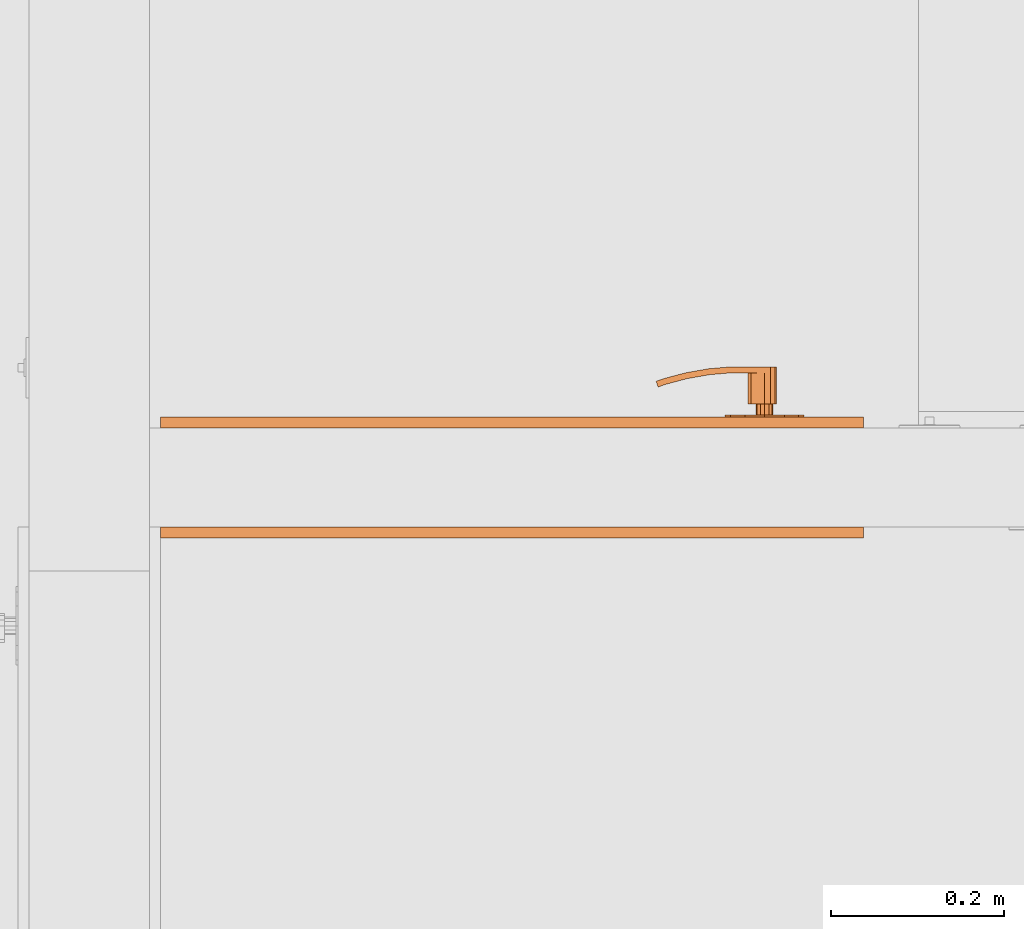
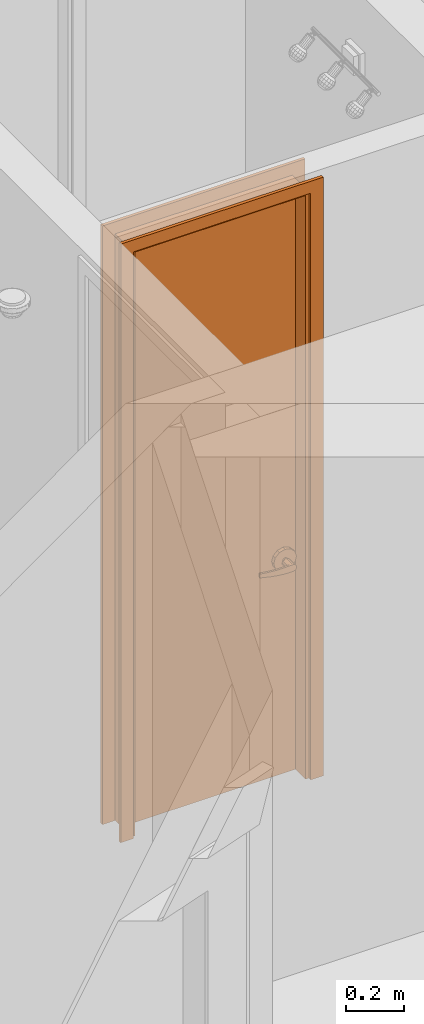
# One storey, part 21 of 48: 1 proxy.
"""IFC2X3 building model written with IfcOpenShell, lengths in inches."""

from ifc_helpers import new_model, entity, si_unit, converted_unit, derived_unit, money_unit, direction, frame, origin_with_axes, place, context, subcontext, project, spatial, open_shell, faceted_brep, surface_model, source, transform, mapped, type_object, element, save


model = new_model("IFC2X3")

# Units and contexts
model_context = context("Model", 3, precision=0.00039370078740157, world=origin_with_axes(), true_north=direction((0.0, 1.0)))
plan_context = context("Plan", 3, precision=0.00039370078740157, world=origin_with_axes(), true_north=direction((0.0, 1.0)))
body_context = subcontext(model_context, "Body", "Model", "MODEL_VIEW")
ifc_project = project(units=[converted_unit("LENGTHUNIT", "INCH", entity("IfcPositiveLengthMeasure", 0.0254), si_unit("LENGTHUNIT", "METRE"), dimensions=[1, 0, 0, 0, 0, 0, 0]), converted_unit("AREAUNIT", "SQUARE_FOOT", entity("IfcPositiveLengthMeasure", 0.09290304), si_unit("AREAUNIT", "SQUARE_METRE"), dimensions=[2, 0, 0, 0, 0, 0, 0]), si_unit("PLANEANGLEUNIT", "RADIAN"), si_unit("SOLIDANGLEUNIT", "STERADIAN"), money_unit("USD"), converted_unit("TIMEUNIT", "Year", entity("IfcTimeMeasure", 31557600.0), si_unit("TIMEUNIT", "SECOND"), dimensions=[0, 0, 1, 0, 0, 0, 0]), si_unit("MASSUNIT", "GRAM", prefix="KILO"), si_unit("THERMODYNAMICTEMPERATUREUNIT", "DEGREE_CELSIUS"), si_unit("LUMINOUSINTENSITYUNIT", "LUMEN"), si_unit("ENERGYUNIT", "JOULE", prefix="MEGA"), derived_unit("SPECIFICHEATCAPACITYUNIT", [(si_unit("ENERGYUNIT", "JOULE"), 1), (si_unit("MASSUNIT", "GRAM", prefix="KILO"), -1), (si_unit("THERMODYNAMICTEMPERATUREUNIT", "KELVIN"), -1)])], contexts=[model_context, plan_context])

# Site, building, storey
site_placement = place(None, origin_with_axes())
site = spatial("IfcSite", under=ifc_project, at=site_placement, Name="Site", CompositionType="ELEMENT")
building_placement = place(site_placement, origin_with_axes())
building = spatial("IfcBuilding", under=site, at=building_placement, Name="Building", CompositionType="ELEMENT")
storey_placement = place(building_placement, origin_with_axes())
storey = spatial("IfcBuildingStorey", under=building, at=storey_placement, Name="First Floor", CompositionType="ELEMENT", Elevation=0.0)

# Proxy
building_element_proxy_type = type_object("IfcBuildingElementProxyType", Name="D1", PredefinedType="NOTDEFINED")
shared_shape = source(origin_with_axes(), body_context, "Body", "SurfaceModel", [
    faceted_brep([(15.9999999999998, -4.999999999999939, 0.0), (13.99999999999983, -4.999999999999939, 0.0), (13.99999999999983, -4.499999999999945, 0.0), (15.9999999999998, -4.499999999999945, 0.0), (15.9999999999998, -4.999999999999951, 99.99999999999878), (13.99999999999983, -4.999999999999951, 97.99999999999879), (13.99999999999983, -4.499999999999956, 97.99999999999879), (15.9999999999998, -4.499999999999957, 99.99999999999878)], [[[0, 1, 2, 3]], [[0, 4, 5, 1]], [[1, 5, 6, 2]], [[3, 2, 6, 7]], [[4, 0, 3, 7]], [[5, 4, 7, 6]]]),
    faceted_brep([(-15.9999999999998, -4.999999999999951, 99.99999999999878), (-13.99999999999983, -4.999999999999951, 97.99999999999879), (-13.99999999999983, -4.499999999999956, 97.99999999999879), (-15.9999999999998, -4.499999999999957, 99.99999999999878), (-15.9999999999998, -4.999999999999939, 0.0), (-13.99999999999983, -4.999999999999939, 0.0), (-13.99999999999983, -4.499999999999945, 0.0), (-15.9999999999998, -4.499999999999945, 0.0)], [[[0, 1, 2, 3]], [[0, 4, 5, 1]], [[1, 5, 6, 2]], [[3, 2, 6, 7]], [[4, 0, 3, 7]], [[5, 4, 7, 6]]]),
    faceted_brep([(15.9999999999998, -4.999999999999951, 99.99999999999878), (13.99999999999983, -4.999999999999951, 97.99999999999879), (13.99999999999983, -4.499999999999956, 97.99999999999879), (15.9999999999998, -4.499999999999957, 99.99999999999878), (-15.9999999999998, -4.999999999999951, 99.99999999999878), (-13.99999999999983, -4.999999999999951, 97.99999999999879), (-13.99999999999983, -4.499999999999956, 97.99999999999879), (-15.9999999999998, -4.499999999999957, 99.99999999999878)], [[[0, 1, 2, 3]], [[0, 4, 5, 1]], [[1, 5, 6, 2]], [[3, 2, 6, 7]], [[4, 0, 3, 7]], [[5, 4, 7, 6]]]),
    faceted_brep([(15.9999999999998, 0.4999999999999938, 0.0), (15.9999999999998, 0.0, 0.0), (13.99999999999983, 0.0, 0.0), (13.99999999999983, 0.4999999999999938, 0.0), (15.9999999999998, 0.4999999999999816, 99.99999999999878), (15.9999999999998, 0.0, 99.99999999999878), (13.99999999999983, 0.0, 97.99999999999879), (13.99999999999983, 0.4999999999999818, 97.99999999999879)], [[[0, 1, 2, 3]], [[4, 5, 1, 0]], [[1, 5, 6, 2]], [[3, 2, 6, 7]], [[0, 3, 7, 4]], [[7, 6, 5, 4]]]),
    faceted_brep([(-15.9999999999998, 0.4999999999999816, 99.99999999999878), (-15.9999999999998, 0.0, 99.99999999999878), (-13.99999999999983, 0.0, 97.99999999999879), (-13.99999999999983, 0.4999999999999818, 97.99999999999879), (-15.9999999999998, 0.4999999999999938, 0.0), (-15.9999999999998, 0.0, 0.0), (-13.99999999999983, 0.0, 0.0), (-13.99999999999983, 0.4999999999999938, 0.0)], [[[0, 1, 2, 3]], [[4, 5, 1, 0]], [[1, 5, 6, 2]], [[3, 2, 6, 7]], [[0, 3, 7, 4]], [[7, 6, 5, 4]]]),
    faceted_brep([(15.9999999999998, 0.4999999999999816, 99.99999999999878), (15.9999999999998, 0.0, 99.99999999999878), (13.99999999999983, 0.0, 97.99999999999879), (13.99999999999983, 0.4999999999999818, 97.99999999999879), (-15.9999999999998, 0.4999999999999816, 99.99999999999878), (-15.9999999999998, 0.0, 99.99999999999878), (-13.99999999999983, 0.0, 97.99999999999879), (-13.99999999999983, 0.4999999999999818, 97.99999999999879)], [[[0, 1, 2, 3]], [[4, 5, 1, 0]], [[1, 5, 6, 2]], [[3, 2, 6, 7]], [[0, 3, 7, 4]], [[7, 6, 5, 4]]]),
    faceted_brep([(13.99999999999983, 0.0, 0.0), (13.99999999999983, -4.499999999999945, 0.0), (13.49999999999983, -4.499999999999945, 0.0), (13.49999999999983, 0.0, 0.0), (13.99999999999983, 0.0, 97.49999999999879), (13.99999999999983, -4.499999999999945, 97.49999999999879), (13.49999999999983, -4.499999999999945, 97.49999999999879), (13.49999999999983, 0.0, 97.49999999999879)], [[[0, 1, 2, 3]], [[4, 5, 1, 0]], [[1, 5, 6, 2]], [[3, 2, 6, 7]], [[0, 3, 7, 4]], [[7, 6, 5, 4]]]),
    faceted_brep([(-13.99999999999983, 0.0, 0.0), (-13.99999999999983, -4.499999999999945, 0.0), (-13.99999999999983, -4.499999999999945, 97.49999999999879), (-13.99999999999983, 0.0, 97.49999999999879), (-13.49999999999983, 0.0, 0.0), (-13.49999999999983, -4.499999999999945, 0.0), (-13.49999999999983, -4.499999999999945, 97.49999999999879), (-13.49999999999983, 0.0, 97.49999999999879)], [[[0, 1, 2, 3]], [[4, 5, 1, 0]], [[1, 5, 6, 2]], [[3, 2, 6, 7]], [[0, 3, 7, 4]], [[7, 6, 5, 4]]]),
    faceted_brep([(13.99999999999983, 0.0, 97.99999999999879), (13.99999999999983, -4.499999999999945, 97.99999999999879), (13.99999999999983, -4.499999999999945, 97.49999999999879), (13.99999999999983, 0.0, 97.49999999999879), (-13.99999999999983, 0.0, 97.99999999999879), (-13.99999999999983, -4.499999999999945, 97.99999999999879), (-13.99999999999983, -4.499999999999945, 97.49999999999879), (-13.49999999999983, -4.499999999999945, 97.49999999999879), (13.49999999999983, -4.499999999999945, 97.49999999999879), (13.49999999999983, 0.0, 97.49999999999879), (-13.49999999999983, 0.0, 97.49999999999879), (-13.99999999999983, 0.0, 97.49999999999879)], [[[0, 1, 2, 3]], [[4, 5, 1, 0]], [[1, 5, 6, 7, 8, 2]], [[3, 2, 8, 9]], [[0, 3, 9, 10, 11, 4]], [[11, 6, 5, 4]], [[10, 7, 6, 11]], [[9, 8, 7, 10]]]),
    surface_model("IfcShellBasedSurfaceModel", [(9.94865528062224, -2.340551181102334, 36.89566929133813), (9.94865528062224, -2.336614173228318, 36.89566929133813), (9.708661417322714, -2.336614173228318, 35.99999999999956), (9.708661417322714, -2.340551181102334, 35.99999999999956), (10.60433070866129, -2.340551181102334, 37.55134471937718), (10.60433070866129, -2.336614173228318, 37.55134471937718), (9.94865528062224, -1.753937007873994, 36.89566929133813), (9.708661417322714, -1.753937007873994, 35.99999999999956), (9.948655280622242, -2.336614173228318, 35.10433070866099), (9.948655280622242, -2.340551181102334, 35.10433070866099), (10.60433070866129, -2.340551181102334, 34.44865528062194), (11.49999999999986, -2.340551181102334, 34.20866141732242), (12.39566929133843, -2.340551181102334, 34.44865528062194), (13.05134471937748, -2.340551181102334, 35.10433070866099), (13.291338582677, -2.340551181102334, 35.99999999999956), (13.05134471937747, -2.340551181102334, 36.89566929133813), (12.39566929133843, -2.340551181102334, 37.55134471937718), (11.49999999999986, -2.340551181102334, 37.7913385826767), (11.49999999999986, -2.336614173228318, 37.7913385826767), (10.60433070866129, -1.753937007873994, 37.55134471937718), (9.94865528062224, -1.749999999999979, 36.89566929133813), (9.708661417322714, -1.749999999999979, 35.99999999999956), (9.948655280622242, -1.753937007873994, 35.10433070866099), (10.60433070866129, -2.336614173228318, 34.44865528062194), (11.49999999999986, -2.336614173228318, 34.20866141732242), (12.39566929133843, -2.336614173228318, 34.44865528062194), (13.05134471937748, -2.336614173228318, 35.10433070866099), (13.291338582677, -2.336614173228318, 35.99999999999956), (13.05134471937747, -2.336614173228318, 36.89566929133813), (12.39566929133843, -2.336614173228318, 37.55134471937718), (11.49999999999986, -1.753937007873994, 37.7913385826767), (10.60433070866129, -1.749999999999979, 37.55134471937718), (9.948655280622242, -1.749999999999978, 35.10433070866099), (10.60433070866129, -1.753937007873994, 34.44865528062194), (11.49999999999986, -1.753937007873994, 34.20866141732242), (12.39566929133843, -1.753937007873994, 34.44865528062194), (13.05134471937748, -1.753937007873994, 35.10433070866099), (13.291338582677, -1.753937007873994, 35.99999999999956), (13.05134471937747, -1.753937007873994, 36.89566929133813), (12.39566929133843, -1.753937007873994, 37.55134471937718), (11.49999999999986, -1.749999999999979, 37.7913385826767), (10.60433070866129, -1.749999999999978, 34.44865528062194), (11.49999999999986, -1.749999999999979, 34.20866141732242), (12.39566929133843, -1.749999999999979, 34.44865528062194), (13.05134471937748, -1.749999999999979, 35.10433070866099), (13.291338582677, -1.749999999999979, 35.99999999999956), (13.05134471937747, -1.749999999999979, 36.89566929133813), (12.39566929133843, -1.749999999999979, 37.55134471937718)], [open_shell([[[0, 1, 2, 3]], [[4, 5, 1, 0]], [[1, 6, 7, 2]], [[3, 2, 8, 9]], [[3, 9, 10, 11, 12, 13, 14, 15, 16, 17, 4, 0]], [[17, 18, 5, 4]], [[5, 19, 6, 1]], [[6, 20, 21, 7]], [[2, 7, 22, 8]], [[9, 8, 23, 10]], [[10, 23, 24, 11]], [[11, 24, 25, 12]], [[12, 25, 26, 13]], [[13, 26, 27, 14]], [[14, 27, 28, 15]], [[15, 28, 29, 16]], [[16, 29, 18, 17]], [[18, 30, 19, 5]], [[19, 31, 20, 6]], [[7, 21, 32, 22]], [[8, 22, 33, 23]], [[23, 33, 34, 24]], [[24, 34, 35, 25]], [[25, 35, 36, 26]], [[26, 36, 37, 27]], [[27, 37, 38, 28]], [[28, 38, 39, 29]], [[29, 39, 30, 18]], [[30, 40, 31, 19]], [[22, 32, 41, 33]], [[33, 41, 42, 34]], [[34, 42, 43, 35]], [[35, 43, 44, 36]], [[36, 44, 45, 37]], [[37, 45, 46, 38]], [[38, 46, 47, 39]], [[39, 47, 40, 30]]])]),
    faceted_brep([(11.69685039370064, -2.340551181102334, 35.65904511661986), (11.49999999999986, -2.340551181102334, 35.60629921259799), (11.30314960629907, -2.340551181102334, 35.65904511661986), (11.15904511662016, -2.340551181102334, 35.80314960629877), (11.10629921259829, -2.340551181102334, 35.99999999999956), (11.15904511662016, -2.340551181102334, 36.19685039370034), (11.30314960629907, -2.340551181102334, 36.34095488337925), (11.49999999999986, -2.340551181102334, 36.39370078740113), (11.69685039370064, -2.340551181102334, 36.34095488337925), (11.84095488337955, -2.340551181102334, 36.19685039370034), (11.89370078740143, -2.340551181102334, 35.99999999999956), (11.84095488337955, -2.340551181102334, 35.80314960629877), (11.69685039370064, -2.852362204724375, 35.65904511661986), (11.49999999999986, -2.852362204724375, 35.60629921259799), (11.30314960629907, -2.852362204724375, 35.65904511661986), (11.15904511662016, -2.852362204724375, 35.80314960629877), (11.10629921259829, -2.852362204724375, 35.99999999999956), (11.15904511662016, -2.852362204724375, 36.19685039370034), (11.30314960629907, -2.852362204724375, 36.34095488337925), (11.49999999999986, -2.852362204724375, 36.39370078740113), (11.69685039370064, -2.852362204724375, 36.34095488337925), (11.84095488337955, -2.852362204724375, 36.19685039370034), (11.89370078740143, -2.852362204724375, 35.99999999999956), (11.84095488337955, -2.852362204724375, 35.80314960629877)], [[[0, 1, 2, 3, 4, 5, 6, 7, 8, 9, 10, 11]], [[0, 12, 13, 1]], [[1, 13, 14, 2]], [[2, 14, 15, 3]], [[3, 15, 16, 4]], [[4, 16, 17, 5]], [[5, 17, 18, 6]], [[6, 18, 19, 7]], [[7, 19, 20, 8]], [[8, 20, 21, 9]], [[9, 21, 22, 10]], [[10, 22, 23, 11]], [[11, 23, 12, 0]], [[12, 23, 22, 21, 20, 19, 18, 17, 16, 15, 14, 13]]]),
    faceted_brep([(11.49999999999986, -2.852362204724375, 36.55118110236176), (11.49999999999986, -4.269685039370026, 36.55118110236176), (11.77559055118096, -4.269685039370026, 36.47733683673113), (11.77559055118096, -2.852362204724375, 36.47733683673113), (11.10629921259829, -2.852362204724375, 36.47244094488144), (11.10629921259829, -4.269685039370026, 36.47244094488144), (10.87352117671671, -4.269685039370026, 36.35358914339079), (10.73705189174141, -4.269685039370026, 36.13068221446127), (10.73705189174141, -4.269685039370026, 35.86931778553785), (10.87352117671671, -4.269685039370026, 35.64641085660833), (11.10629921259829, -4.269685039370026, 35.52755905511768), (11.49999999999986, -4.269685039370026, 35.44881889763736), (11.77559055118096, -4.269685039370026, 35.52266316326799), (11.97733683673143, -4.269685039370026, 35.72440944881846), (12.05118110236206, -4.269685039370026, 35.99999999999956), (11.97733683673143, -4.269685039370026, 36.27559055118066), (11.97733683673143, -2.852362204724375, 36.27559055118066), (12.05118110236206, -2.852362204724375, 35.99999999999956), (11.97733683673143, -2.852362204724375, 35.72440944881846), (11.77559055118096, -2.852362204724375, 35.52266316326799), (11.49999999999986, -2.852362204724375, 35.44881889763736), (11.10629921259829, -2.852362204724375, 35.52755905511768), (10.87352117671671, -2.852362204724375, 35.64641085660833), (10.73705189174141, -2.852362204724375, 35.86931778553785), (10.73705189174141, -2.852362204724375, 36.13068221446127), (10.87352117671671, -2.852362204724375, 36.35358914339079)], [[[0, 1, 2, 3]], [[4, 5, 1, 0]], [[1, 5, 6, 7, 8, 9, 10, 11, 12, 13, 14, 15, 2]], [[3, 2, 15, 16]], [[0, 3, 16, 17, 18, 19, 20, 21, 22, 23, 24, 25, 4]], [[25, 6, 5, 4]], [[24, 7, 6, 25]], [[23, 8, 7, 24]], [[22, 9, 8, 23]], [[21, 10, 9, 22]], [[20, 11, 10, 21]], [[19, 12, 11, 20]], [[18, 13, 12, 19]], [[17, 14, 13, 18]], [[16, 15, 14, 17]]]),
    surface_model("IfcShellBasedSurfaceModel", [(11.49999999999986, -4.269685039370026, 36.55118110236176), (11.49999999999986, -4.545275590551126, 36.55118110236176), (11.77559055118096, -4.545275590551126, 36.47733683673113), (11.77559055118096, -4.269685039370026, 36.47733683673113), (10.51574803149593, -4.269685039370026, 36.55118110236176), (10.51574803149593, -4.545275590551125, 36.55118110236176), (10.51574803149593, -4.545275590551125, 35.44881889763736), (11.49999999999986, -4.545275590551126, 35.44881889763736), (11.77559055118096, -4.545275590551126, 35.52266316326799), (11.97733683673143, -4.545275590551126, 35.72440944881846), (12.05118110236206, -4.545275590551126, 35.99999999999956), (11.97733683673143, -4.545275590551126, 36.27559055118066), (11.97733683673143, -4.269685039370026, 36.27559055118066), (12.05118110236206, -4.269685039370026, 35.99999999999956), (11.97733683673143, -4.269685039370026, 35.72440944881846), (11.77559055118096, -4.269685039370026, 35.52266316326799), (11.49999999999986, -4.269685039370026, 35.44881889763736), (10.51574803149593, -4.269685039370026, 35.44881889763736)], [open_shell([[[0, 1, 2, 3]], [[4, 5, 1, 0]], [[1, 5, 6, 7, 8, 9, 10, 11, 2]], [[3, 2, 11, 12]], [[0, 3, 12, 13, 14, 15, 16, 17, 4]], [[16, 7, 6, 17]], [[15, 8, 7, 16]], [[14, 9, 8, 15]], [[13, 10, 9, 14]], [[12, 11, 10, 13]]])]),
    surface_model("IfcShellBasedSurfaceModel", [(10.51574803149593, -4.269685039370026, 35.44881889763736), (9.988035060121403, -4.545275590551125, 35.47974008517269), (10.00006760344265, -4.269685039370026, 35.47974008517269), (10.51574803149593, -4.545275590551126, 35.44881889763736), (8.93662533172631, -4.453289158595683, 35.54158246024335), (10.00006760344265, -4.269685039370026, 36.52025991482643), (10.51574803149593, -4.269685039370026, 36.55118110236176), (10.51574803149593, -4.545275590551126, 36.55118110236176), (9.988035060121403, -4.545275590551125, 36.52025991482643), (8.93662533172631, -4.453289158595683, 36.45841753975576), (8.972631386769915, -4.179796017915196, 35.54158246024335), (8.972631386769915, -4.179796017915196, 36.45841753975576), (7.897233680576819, -4.270016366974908, 36.3965751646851), (7.897233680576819, -4.270016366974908, 35.60342483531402), (7.956939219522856, -4.000702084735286, 35.60342483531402), (7.956939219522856, -4.000702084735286, 36.3965751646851), (6.877770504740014, -3.996852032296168, 36.33473278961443), (6.877770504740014, -3.996852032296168, 35.66526721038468), (6.960721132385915, -3.733766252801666, 35.66526721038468), (6.960721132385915, -3.733766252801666, 36.33473278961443), (6.560582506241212, -3.881405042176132, 36.31496062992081), (6.560582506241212, -3.881405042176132, 35.6850393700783), (6.650765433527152, -3.620951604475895, 35.6850393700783), (6.650765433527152, -3.620951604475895, 36.31496062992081)], [open_shell([[[0, 1, 2]], [[0, 3, 1]], [[2, 1, 4]], [[0, 2, 5, 6]], [[3, 7, 8, 1]], [[1, 8, 9, 4]], [[2, 4, 10]], [[2, 10, 11, 5]], [[5, 7, 6]], [[5, 8, 7]], [[11, 9, 8]], [[4, 9, 12, 13]], [[10, 4, 13]], [[10, 14, 15, 11]], [[11, 8, 5]], [[15, 9, 11]], [[15, 12, 9]], [[13, 12, 16, 17]], [[10, 13, 14]], [[14, 18, 19, 15]], [[19, 12, 15]], [[19, 16, 12]], [[17, 16, 20, 21]], [[14, 13, 17]], [[14, 17, 18]], [[18, 22, 23, 19]], [[23, 16, 19]], [[23, 20, 16]], [[22, 21, 20, 23]], [[18, 17, 21]], [[18, 21, 22]]])]),
    surface_model("IfcShellBasedSurfaceModel", [(9.948655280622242, 0.5905511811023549, 36.89566929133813), (9.708661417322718, 0.5905511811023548, 35.99999999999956), (9.708661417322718, 0.5866141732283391, 35.99999999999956), (9.948655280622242, 0.5866141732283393, 36.89566929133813), (10.60433070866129, 0.5905511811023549, 37.55134471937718), (11.49999999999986, 0.590551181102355, 37.7913385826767), (12.39566929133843, 0.590551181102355, 37.55134471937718), (13.05134471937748, 0.590551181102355, 36.89566929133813), (13.291338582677, 0.590551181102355, 35.99999999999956), (13.05134471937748, 0.5905511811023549, 35.10433070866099), (12.39566929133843, 0.5905511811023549, 34.44865528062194), (11.49999999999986, 0.5905511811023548, 34.20866141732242), (10.60433070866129, 0.5905511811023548, 34.44865528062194), (9.948655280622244, 0.5905511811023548, 35.10433070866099), (9.948655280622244, 0.5866141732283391, 35.10433070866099), (9.708661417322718, 0.00393700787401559, 35.99999999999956), (9.948655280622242, 0.00393700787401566, 36.89566929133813), (10.60433070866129, 0.5866141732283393, 37.55134471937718), (11.49999999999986, 0.5866141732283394, 37.7913385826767), (12.39566929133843, 0.5866141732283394, 37.55134471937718), (13.05134471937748, 0.5866141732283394, 36.89566929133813), (13.291338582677, 0.5866141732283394, 35.99999999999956), (13.05134471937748, 0.5866141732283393, 35.10433070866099), (12.39566929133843, 0.5866141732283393, 34.44865528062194), (11.49999999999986, 0.5866141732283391, 34.20866141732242), (10.60433070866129, 0.5866141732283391, 34.44865528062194), (9.948655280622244, 0.00393700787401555, 35.10433070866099), (9.708661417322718, 0.0, 35.99999999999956), (9.948655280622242, 0.0, 36.89566929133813), (10.60433070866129, 0.00393700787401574, 37.55134471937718), (11.49999999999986, 0.00393700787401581, 37.7913385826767), (12.39566929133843, 0.00393700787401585, 37.55134471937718), (13.05134471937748, 0.00393700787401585, 36.89566929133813), (13.291338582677, 0.00393700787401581, 35.99999999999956), (13.05134471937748, 0.00393700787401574, 35.10433070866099), (12.39566929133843, 0.00393700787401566, 34.44865528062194), (11.49999999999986, 0.00393700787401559, 34.20866141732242), (10.60433070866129, 0.00393700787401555, 34.44865528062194), (9.948655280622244, 0.0, 35.10433070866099), (10.60433070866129, 0.0, 37.55134471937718), (11.49999999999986, 0.0, 37.7913385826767), (12.39566929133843, 0.0, 37.55134471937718), (13.05134471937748, 0.0, 36.89566929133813), (13.291338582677, 0.0, 35.99999999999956), (13.05134471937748, 0.0, 35.10433070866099), (12.39566929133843, 0.0, 34.44865528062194), (11.49999999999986, 0.0, 34.20866141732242), (10.60433070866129, 0.0, 34.44865528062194)], [open_shell([[[0, 1, 2, 3]], [[1, 0, 4, 5, 6, 7, 8, 9, 10, 11, 12, 13]], [[1, 13, 14, 2]], [[3, 2, 15, 16]], [[4, 0, 3, 17]], [[5, 4, 17, 18]], [[6, 5, 18, 19]], [[7, 6, 19, 20]], [[8, 7, 20, 21]], [[9, 8, 21, 22]], [[10, 9, 22, 23]], [[11, 10, 23, 24]], [[12, 11, 24, 25]], [[13, 12, 25, 14]], [[2, 14, 26, 15]], [[16, 15, 27, 28]], [[17, 3, 16, 29]], [[18, 17, 29, 30]], [[19, 18, 30, 31]], [[20, 19, 31, 32]], [[21, 20, 32, 33]], [[22, 21, 33, 34]], [[23, 22, 34, 35]], [[24, 23, 35, 36]], [[25, 24, 36, 37]], [[14, 25, 37, 26]], [[15, 26, 38, 27]], [[29, 16, 28, 39]], [[30, 29, 39, 40]], [[31, 30, 40, 41]], [[32, 31, 41, 42]], [[33, 32, 42, 43]], [[34, 33, 43, 44]], [[35, 34, 44, 45]], [[36, 35, 45, 46]], [[37, 36, 46, 47]], [[26, 37, 47, 38]]])]),
    faceted_brep([(11.69685039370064, 0.5905511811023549, 35.65904511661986), (11.84095488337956, 0.5905511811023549, 35.80314960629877), (11.89370078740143, 0.5905511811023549, 35.99999999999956), (11.84095488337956, 0.5905511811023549, 36.19685039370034), (11.69685039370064, 0.5905511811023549, 36.34095488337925), (11.49999999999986, 0.5905511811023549, 36.39370078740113), (11.30314960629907, 0.5905511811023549, 36.34095488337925), (11.15904511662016, 0.5905511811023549, 36.19685039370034), (11.10629921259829, 0.5905511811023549, 35.99999999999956), (11.15904511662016, 0.5905511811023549, 35.80314960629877), (11.30314960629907, 0.5905511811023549, 35.65904511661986), (11.49999999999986, 0.5905511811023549, 35.60629921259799), (11.69685039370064, 1.102362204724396, 35.65904511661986), (11.84095488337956, 1.102362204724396, 35.80314960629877), (11.89370078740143, 1.102362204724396, 35.99999999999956), (11.84095488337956, 1.102362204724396, 36.19685039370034), (11.69685039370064, 1.102362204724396, 36.34095488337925), (11.49999999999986, 1.102362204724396, 36.39370078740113), (11.30314960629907, 1.102362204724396, 36.34095488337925), (11.15904511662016, 1.102362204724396, 36.19685039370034), (11.10629921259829, 1.102362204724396, 35.99999999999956), (11.15904511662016, 1.102362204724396, 35.80314960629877), (11.30314960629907, 1.102362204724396, 35.65904511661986), (11.49999999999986, 1.102362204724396, 35.60629921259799)], [[[0, 1, 2, 3, 4, 5, 6, 7, 8, 9, 10, 11]], [[1, 0, 12, 13]], [[2, 1, 13, 14]], [[3, 2, 14, 15]], [[4, 3, 15, 16]], [[5, 4, 16, 17]], [[6, 5, 17, 18]], [[7, 6, 18, 19]], [[8, 7, 19, 20]], [[9, 8, 20, 21]], [[10, 9, 21, 22]], [[11, 10, 22, 23]], [[0, 11, 23, 12]], [[12, 23, 22, 21, 20, 19, 18, 17, 16, 15, 14, 13]]]),
    faceted_brep([(11.49999999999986, 1.102362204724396, 36.55118110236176), (11.77559055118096, 1.102362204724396, 36.47733683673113), (11.77559055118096, 2.519685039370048, 36.47733683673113), (11.49999999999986, 2.519685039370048, 36.55118110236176), (11.10629921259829, 1.102362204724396, 36.47244094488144), (10.87352117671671, 1.102362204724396, 36.35358914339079), (10.73705189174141, 1.102362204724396, 36.13068221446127), (10.73705189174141, 1.102362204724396, 35.86931778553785), (10.87352117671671, 1.102362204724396, 35.64641085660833), (11.10629921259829, 1.102362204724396, 35.52755905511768), (11.49999999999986, 1.102362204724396, 35.44881889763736), (11.77559055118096, 1.102362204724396, 35.52266316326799), (11.97733683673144, 1.102362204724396, 35.72440944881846), (12.05118110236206, 1.102362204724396, 35.99999999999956), (11.97733683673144, 1.102362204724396, 36.27559055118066), (11.97733683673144, 2.519685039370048, 36.27559055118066), (12.05118110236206, 2.519685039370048, 35.99999999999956), (11.97733683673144, 2.519685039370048, 35.72440944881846), (11.77559055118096, 2.519685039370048, 35.52266316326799), (11.49999999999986, 2.519685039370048, 35.44881889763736), (11.10629921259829, 2.519685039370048, 35.52755905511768), (10.87352117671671, 2.519685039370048, 35.64641085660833), (10.73705189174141, 2.519685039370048, 35.86931778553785), (10.73705189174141, 2.519685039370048, 36.13068221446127), (10.87352117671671, 2.519685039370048, 36.35358914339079), (11.10629921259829, 2.519685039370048, 36.47244094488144)], [[[0, 1, 2, 3]], [[0, 4, 5, 6, 7, 8, 9, 10, 11, 12, 13, 14, 1]], [[1, 14, 15, 2]], [[3, 2, 15, 16, 17, 18, 19, 20, 21, 22, 23, 24, 25]], [[4, 0, 3, 25]], [[5, 4, 25, 24]], [[6, 5, 24, 23]], [[7, 6, 23, 22]], [[8, 7, 22, 21]], [[9, 8, 21, 20]], [[10, 9, 20, 19]], [[11, 10, 19, 18]], [[12, 11, 18, 17]], [[13, 12, 17, 16]], [[14, 13, 16, 15]]]),
    surface_model("IfcShellBasedSurfaceModel", [(11.49999999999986, 2.519685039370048, 36.55118110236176), (11.77559055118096, 2.519685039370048, 36.47733683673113), (11.77559055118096, 2.795275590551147, 36.47733683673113), (11.49999999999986, 2.795275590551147, 36.55118110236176), (10.51574803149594, 2.519685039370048, 36.55118110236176), (10.51574803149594, 2.519685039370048, 35.44881889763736), (11.49999999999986, 2.519685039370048, 35.44881889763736), (11.77559055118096, 2.519685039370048, 35.52266316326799), (11.97733683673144, 2.519685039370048, 35.72440944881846), (12.05118110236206, 2.519685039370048, 35.99999999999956), (11.97733683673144, 2.519685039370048, 36.27559055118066), (11.97733683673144, 2.795275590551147, 36.27559055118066), (12.05118110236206, 2.795275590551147, 35.99999999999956), (11.97733683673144, 2.795275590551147, 35.72440944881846), (11.77559055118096, 2.795275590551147, 35.52266316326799), (11.49999999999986, 2.795275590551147, 35.44881889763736), (10.51574803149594, 2.795275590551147, 35.44881889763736), (10.51574803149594, 2.795275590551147, 36.55118110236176)], [open_shell([[[0, 1, 2, 3]], [[0, 4, 5, 6, 7, 8, 9, 10, 1]], [[1, 10, 11, 2]], [[3, 2, 11, 12, 13, 14, 15, 16, 17]], [[4, 0, 3, 17]], [[6, 5, 16, 15]], [[7, 6, 15, 14]], [[8, 7, 14, 13]], [[9, 8, 13, 12]], [[10, 9, 12, 11]]])]),
    surface_model("IfcShellBasedSurfaceModel", [(10.51574803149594, 2.519685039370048, 35.44881889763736), (10.00006760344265, 2.519685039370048, 35.47974008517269), (9.988035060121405, 2.795275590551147, 35.47974008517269), (10.51574803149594, 2.519685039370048, 36.55118110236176), (10.00006760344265, 2.519685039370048, 36.52025991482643), (8.936625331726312, 2.703289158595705, 35.54158246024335), (10.51574803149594, 2.795275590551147, 35.44881889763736), (10.51574803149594, 2.795275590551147, 36.55118110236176), (8.972631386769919, 2.429796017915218, 36.45841753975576), (8.972631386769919, 2.429796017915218, 35.54158246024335), (8.936625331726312, 2.703289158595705, 36.45841753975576), (9.988035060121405, 2.795275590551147, 36.52025991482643), (7.956939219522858, 2.250702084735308, 36.3965751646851), (7.956939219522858, 2.250702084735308, 35.60342483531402), (7.897233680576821, 2.52001636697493, 35.60342483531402), (7.897233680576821, 2.52001636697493, 36.3965751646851), (6.960721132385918, 1.983766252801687, 36.33473278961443), (6.960721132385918, 1.983766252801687, 35.66526721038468), (6.877770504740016, 2.24685203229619, 35.66526721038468), (6.877770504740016, 2.24685203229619, 36.33473278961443), (6.650765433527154, 1.870951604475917, 36.31496062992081), (6.650765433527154, 1.870951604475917, 35.6850393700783), (6.560582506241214, 2.131405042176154, 35.6850393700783), (6.560582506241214, 2.131405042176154, 36.31496062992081)], [open_shell([[[0, 1, 2]], [[0, 3, 4, 1]], [[1, 5, 2]], [[0, 2, 6]], [[4, 3, 7]], [[1, 4, 8, 9]], [[1, 9, 5]], [[2, 5, 10, 11]], [[6, 2, 11, 7]], [[4, 7, 11]], [[8, 4, 11]], [[9, 8, 12, 13]], [[9, 14, 5]], [[5, 14, 15, 10]], [[8, 11, 10]], [[12, 8, 10]], [[13, 12, 16, 17]], [[9, 13, 14]], [[14, 18, 19, 15]], [[12, 10, 15]], [[16, 12, 15]], [[17, 16, 20, 21]], [[13, 17, 18]], [[13, 18, 14]], [[18, 22, 23, 19]], [[16, 15, 19]], [[20, 16, 19]], [[21, 20, 23, 22]], [[17, 21, 22]], [[17, 22, 18]], [[20, 19, 23]]])]),
    faceted_brep([(13.46062992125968, -1.749999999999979, 0.03937007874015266), (13.46062992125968, -1.749999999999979, 97.46062992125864), (-13.46062992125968, -1.749999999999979, 97.46062992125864), (-13.46062992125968, -1.749999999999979, 0.03937007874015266), (13.46062992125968, 0.0, 0.03937007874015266), (13.46062992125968, 0.0, 97.46062992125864), (-13.46062992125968, 0.0, 97.46062992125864), (-13.46062992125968, 0.0, 0.03937007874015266)], [[[0, 1, 2, 3]], [[4, 5, 1, 0]], [[2, 1, 5, 6]], [[3, 2, 6, 7]], [[7, 4, 0, 3]], [[7, 6, 5, 4]]]),
    faceted_brep([(-13.49999999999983, 0.0, 0.0), (13.49999999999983, 0.0, 0.0), (13.49999999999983, -1.749999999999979, 0.0), (-13.49999999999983, -1.749999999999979, 0.0), (-13.49999999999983, 0.0, 97.49999999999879), (13.49999999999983, 0.0, 97.49999999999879), (-13.46062992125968, 0.0, 0.039370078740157), (13.46062992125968, 0.0, 0.039370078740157), (13.46062992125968, 0.0, 97.46062992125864), (-13.46062992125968, 0.0, 97.46062992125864), (13.49999999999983, -1.749999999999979, 97.49999999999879), (-13.49999999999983, -1.749999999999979, 97.49999999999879), (-13.46062992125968, -1.749999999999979, 0.039370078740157), (-13.46062992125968, -1.749999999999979, 97.46062992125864), (13.46062992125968, -1.749999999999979, 97.46062992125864), (13.46062992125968, -1.749999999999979, 0.039370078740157)], [[[0, 1, 2, 3]], [[0, 4, 5, 1], [6, 7, 8, 9]], [[1, 5, 10, 2]], [[3, 2, 10, 11], [12, 13, 14, 15]], [[4, 0, 3, 11]], [[5, 4, 11, 10]], [[7, 6, 12, 15]], [[8, 7, 15, 14]], [[9, 8, 14, 13]], [[6, 9, 13, 12]]]),
])
proxy_placement = place(storey_placement, frame((-112.9999999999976, 426.4999999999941, 0.0), z_axis=(0.0, 0.0, 1.0), x_axis=(1.0, 0.0, 0.0)))
element("IfcBuildingElementProxy", 1, at=proxy_placement, inside=storey, type_object=building_element_proxy_type, Name="D-09", context=body_context, shape_type="MappedRepresentation", body=[
    mapped(shared_shape, transform((13.99999999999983, 0.0, 0.0))),
])

save(model, "model.ifc")
